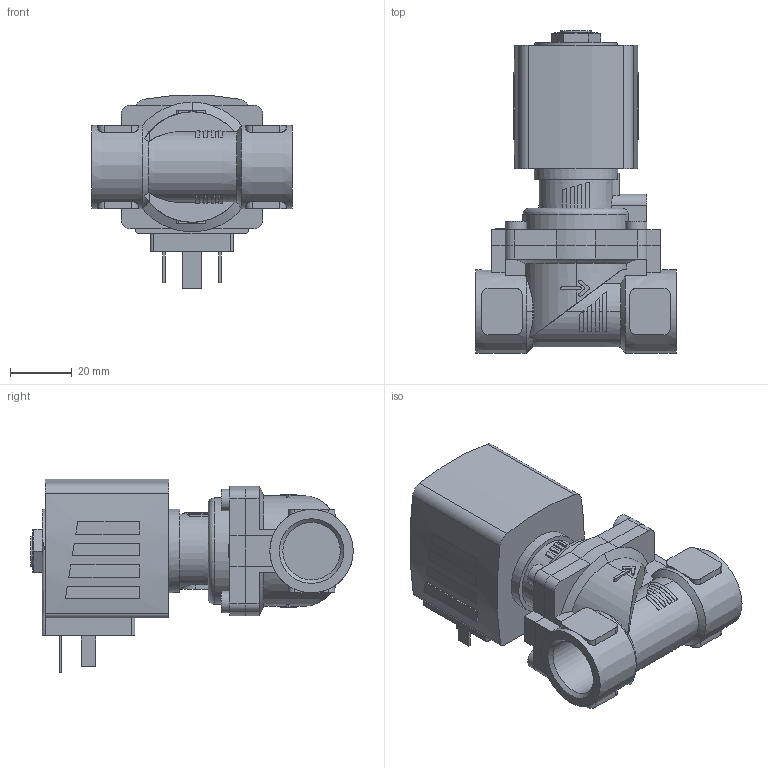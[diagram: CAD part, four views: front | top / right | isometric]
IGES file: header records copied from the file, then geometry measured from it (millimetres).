
Start section: Data from Parasolid IGES Translator 26.0.171, Copyright(c) 2006 Siemens PLM Software. All Rights Reserved.
Global section: file name: 6281-316693-2_2-Way_Solenoid_Valve__Servo-assisted__General_Purpose.igs; native system: By Siemens PLM Incorporated; preprocessor: XPlus GENERIC/IGES 26.0.171; author: Noname; organization: Noname; date: 20240518.222119; units: millimetre
Bounding box: 65 x 104.5 x 62.83 mm (x, y, z)
Surface area: 31277.9 mm2 (no closed solid volume)
Topology: 0 solids, 0 shells, 365 faces, 1910 edges, 1895 vertices
Faces by surface type: extrusion 236, revolution 129
